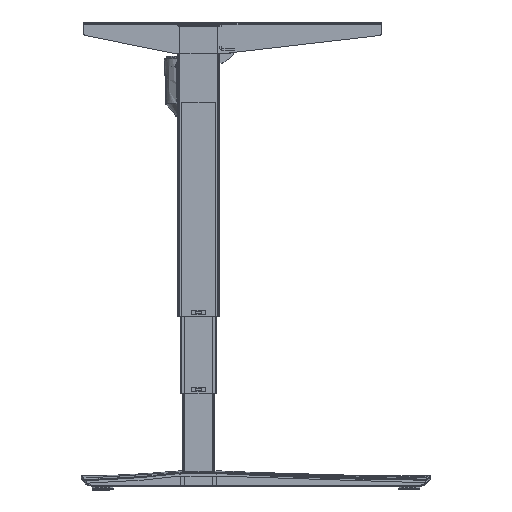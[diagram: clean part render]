
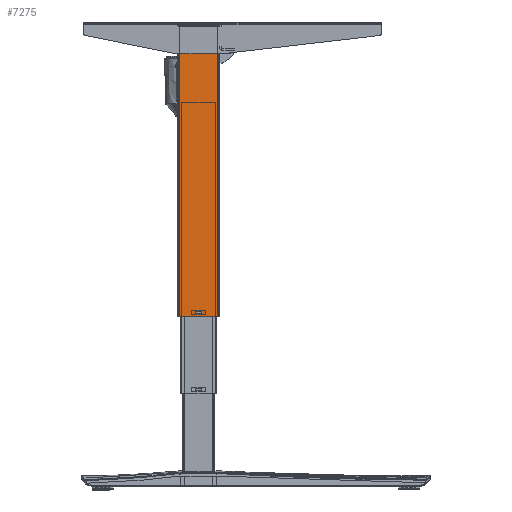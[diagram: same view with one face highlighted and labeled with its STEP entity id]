
A CAD part, left-side view. The second image highlights one B-rep face of the part: STEP entity #7275.
In plain terms, the highlighted planar face has unit normal (-1, 0, 0).
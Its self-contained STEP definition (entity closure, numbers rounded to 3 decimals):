
#1671 = AXIS2_PLACEMENT_3D ( 'NONE', #18742, #94201, #9703 ) ;
#2236 = EDGE_CURVE ( 'NONE', #53984, #33767, #61356, .T. ) ;
#6160 = EDGE_LOOP ( 'NONE', ( #40319, #41570, #43069, #31942 ) ) ;
#7275 = ADVANCED_FACE ( 'NONE', ( #35472, #86148 ), #86429, .F. ) ;
#8624 = LINE ( 'NONE', #36504, #66453 ) ;
#9703 = DIRECTION ( 'NONE',  ( 0., 1., 0. ) ) ;
#9768 = VECTOR ( 'NONE', #72233, 1000. ) ;
#10128 = ORIENTED_EDGE ( 'NONE', *, *, #35646, .T. ) ;
#10660 = EDGE_CURVE ( 'NONE', #18693, #33767, #42277, .T. ) ;
#11707 = LINE ( 'NONE', #71206, #23600 ) ;
#11879 = VERTEX_POINT ( 'NONE', #27944 ) ;
#12241 = CARTESIAN_POINT ( 'NONE',  ( -30., -6., 10. ) ) ;
#14111 = DIRECTION ( 'NONE',  ( 0., -1., 0. ) ) ;
#17034 = CARTESIAN_POINT ( 'NONE',  ( -30., -6., 10. ) ) ;
#17588 = CARTESIAN_POINT ( 'NONE',  ( -30., 6., 10. ) ) ;
#18362 = CARTESIAN_POINT ( 'NONE',  ( -30., 6., 6. ) ) ;
#18693 = VERTEX_POINT ( 'NONE', #51251 ) ;
#18742 = CARTESIAN_POINT ( 'NONE',  ( -30., 37., 561. ) ) ;
#19816 = CARTESIAN_POINT ( 'NONE',  ( -30., 6., 6. ) ) ;
#23600 = VECTOR ( 'NONE', #64442, 1000. ) ;
#26558 = CARTESIAN_POINT ( 'NONE',  ( -30., -6., 6. ) ) ;
#27944 = CARTESIAN_POINT ( 'NONE',  ( -30., 37., 556. ) ) ;
#31749 = VERTEX_POINT ( 'NONE', #26558 ) ;
#31942 = ORIENTED_EDGE ( 'NONE', *, *, #2236, .T. ) ;
#33767 = VERTEX_POINT ( 'NONE', #37252 ) ;
#34337 = DIRECTION ( 'NONE',  ( 0., -1., 0. ) ) ;
#35472 = FACE_BOUND ( 'NONE', #44341, .T. ) ;
#35646 = EDGE_CURVE ( 'NONE', #70390, #77081, #8624, .T. ) ;
#35931 = EDGE_CURVE ( 'NONE', #44125, #70390, #11707, .T. ) ;
#36504 = CARTESIAN_POINT ( 'NONE',  ( -30., 6., 10. ) ) ;
#37252 = CARTESIAN_POINT ( 'NONE',  ( -30., -37., 0. ) ) ;
#38564 = LINE ( 'NONE', #18362, #9768 ) ;
#38776 = VECTOR ( 'NONE', #46487, 1000. ) ;
#40319 = ORIENTED_EDGE ( 'NONE', *, *, #10660, .F. ) ;
#41570 = ORIENTED_EDGE ( 'NONE', *, *, #92404, .F. ) ;
#42015 = CARTESIAN_POINT ( 'NONE',  ( -30., 40., 556. ) ) ;
#42277 = LINE ( 'NONE', #55062, #62787 ) ;
#43069 = ORIENTED_EDGE ( 'NONE', *, *, #69703, .T. ) ;
#44125 = VERTEX_POINT ( 'NONE', #19816 ) ;
#44341 = EDGE_LOOP ( 'NONE', ( #63042, #10128, #75013, #77425 ) ) ;
#46487 = DIRECTION ( 'NONE',  ( 0., 0., -1. ) ) ;
#48579 = CARTESIAN_POINT ( 'NONE',  ( -30., 37., 0. ) ) ;
#48888 = EDGE_CURVE ( 'NONE', #31749, #44125, #38564, .T. ) ;
#51251 = CARTESIAN_POINT ( 'NONE',  ( -30., -37., 556. ) ) ;
#53984 = VERTEX_POINT ( 'NONE', #48579 ) ;
#55062 = CARTESIAN_POINT ( 'NONE',  ( -30., -37., 561. ) ) ;
#58923 = VECTOR ( 'NONE', #34337, 1000. ) ;
#59429 = DIRECTION ( 'NONE',  ( 0., -1., 0. ) ) ;
#61356 = LINE ( 'NONE', #95981, #83018 ) ;
#62787 = VECTOR ( 'NONE', #93152, 1000. ) ;
#63042 = ORIENTED_EDGE ( 'NONE', *, *, #35931, .T. ) ;
#64442 = DIRECTION ( 'NONE',  ( 0., 0., 1. ) ) ;
#66453 = VECTOR ( 'NONE', #59429, 1000. ) ;
#69703 = EDGE_CURVE ( 'NONE', #11879, #53984, #72578, .T. ) ;
#70390 = VERTEX_POINT ( 'NONE', #17588 ) ;
#71206 = CARTESIAN_POINT ( 'NONE',  ( -30., 6., 10. ) ) ;
#72233 = DIRECTION ( 'NONE',  ( 0., 1., 0. ) ) ;
#72578 = LINE ( 'NONE', #93677, #38776 ) ;
#75013 = ORIENTED_EDGE ( 'NONE', *, *, #77835, .T. ) ;
#75457 = DIRECTION ( 'NONE',  ( 0., 0., -1. ) ) ;
#77081 = VERTEX_POINT ( 'NONE', #17034 ) ;
#77425 = ORIENTED_EDGE ( 'NONE', *, *, #48888, .T. ) ;
#77835 = EDGE_CURVE ( 'NONE', #77081, #31749, #94448, .T. ) ;
#83018 = VECTOR ( 'NONE', #14111, 1000. ) ;
#86148 = FACE_OUTER_BOUND ( 'NONE', #6160, .T. ) ;
#86429 = PLANE ( 'NONE',  #1671 ) ;
#92004 = VECTOR ( 'NONE', #75457, 1000. ) ;
#92404 = EDGE_CURVE ( 'NONE', #11879, #18693, #93954, .T. ) ;
#93152 = DIRECTION ( 'NONE',  ( 0., 0., -1. ) ) ;
#93677 = CARTESIAN_POINT ( 'NONE',  ( -30., 37., 561. ) ) ;
#93954 = LINE ( 'NONE', #42015, #58923 ) ;
#94201 = DIRECTION ( 'NONE',  ( 1., 0., 0. ) ) ;
#94448 = LINE ( 'NONE', #12241, #92004 ) ;
#95981 = CARTESIAN_POINT ( 'NONE',  ( -30., 37., 0. ) ) ;
